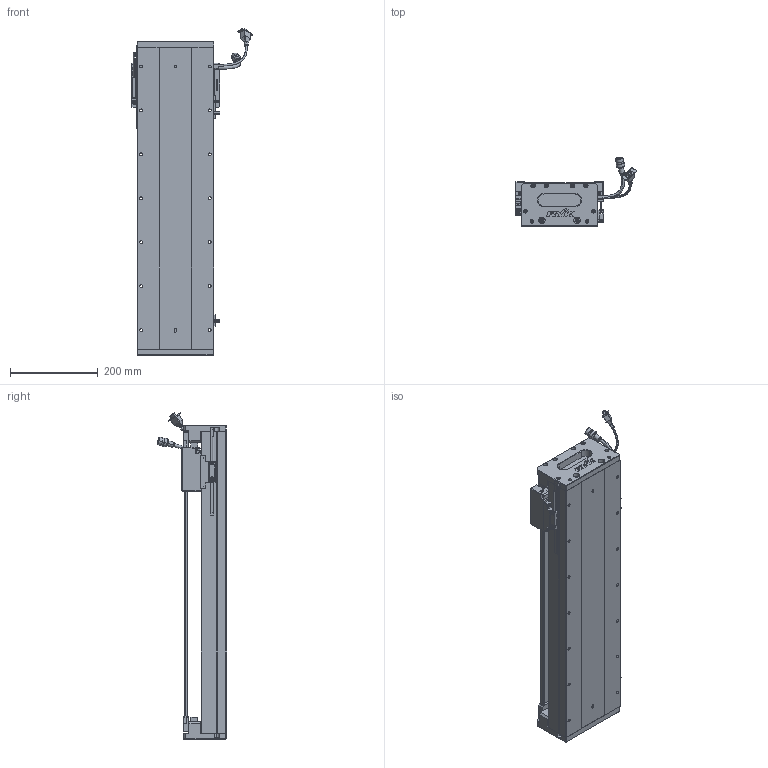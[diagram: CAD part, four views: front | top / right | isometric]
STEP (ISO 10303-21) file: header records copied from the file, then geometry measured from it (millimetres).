
FILE_DESCRIPTION (( 'STEP AP203' ), '1' );
FILE_NAME ('Z1-RY170D-1-L500-B-K.SLDASM_0500.step', '2021-05-17T08:51:36', ( '盈信电脑' ), ( '东莞市道滘镇水果街19号' ), 'SwSTEP 2.0', 'SolidWorks 2016', '' );
FILE_SCHEMA (( 'CONFIG_CONTROL_DESIGN' ));
Length unit declared in the file: millimetre
Products named in the file (36): SCREW-M1.6-2; HARNESS-Part-2; LABEL-Part-1; SEAL; SCREW-M1.6-1; Z-RY170詩湍狟揤裔; HOLDER0; SCALE-Part-1; Z-170詩湍傷裔啣; Z1-RY170-L500詩湍145mm遵_0500; LABEL; COVER-Part-1; 榋妏寠巭燃_暯_M2_2; SCALE; 覜茼ん672; Z1-RY170D-1-L500-B-K.SLDASM_0500; Z1-RY170-L500耀郪菁釱_0500; SCALE-Part-2; 170-Z-臏賑輸盄裔(21遴); PSLH080_PSLF2; HARNESS-Part-1; SCREW-M1.6; SCREW-M1.7-1; RY170直线电机感应器672光电感应片; COVER; 080黍杅芛假蚾釱21遴; Z1-RY170臏賑輸(21遴); SCREW-M1.7; 140雄赽晤鎢ん堤盄; 140蚥薯蝶輸; SEAL-Part-1; SCREW-M1.6-3; HARNESS; PBU_SHEET; SHIELDPLATE; Z-RY170詩湍奻揤裔
Assembly tree (41 placements, depth 4):
  Z1-RY170D-1-L500-B-K.SLDASM_0500
    Z1-RY170-L500耀郪菁釱_0500
    RY170直线电机感应器672光电感应片
    Z1-RY170臏賑輸(21遴)
    覜茼ん672  x3
    PSLH080_PSLF2
      SCALE
        SCALE-Part-1
        SCALE-Part-2
      HARNESS
        HARNESS-Part-1
        HARNESS-Part-2
      LABEL
        LABEL-Part-1
      COVER
        COVER-Part-1
      SEAL
        SEAL-Part-1
      榋妏寠巭燃_暯_M2_2
      SHIELDPLATE
      SCREW-M1.7
      SCREW-M1.7-1
      PBU_SHEET
      SCREW-M1.6
      SCREW-M1.6-1
      SCREW-M1.6-2
      SCREW-M1.6-3
      HOLDER0
    080黍杅芛假蚾釱21遴
    Z1-RY170-L500詩湍145mm遵_0500
    Z-170詩湍傷裔啣  x2
    Z-RY170詩湍奻揤裔  x2
    Z-RY170詩湍狟揤裔  x2
    140蚥薯蝶輸  x2
    170-Z-臏賑輸盄裔(21遴)
    140雄赽晤鎢ん堤盄
Bounding box: 275.34 x 158.11 x 743.73 mm (x, y, z)
Volume: 4317951.5 mm3; surface area: 1065132.9 mm2
Topology: 36 solids, 36 shells, 2716 faces, 7179 edges, 4529 vertices
Faces by surface type: cylinder 1178, plane 1108, cone 308, torus 69, bspline 53
Entity records: 77303 total; most frequent: CARTESIAN_POINT 18998, DIRECTION 11345, ORIENTED_EDGE 11314, EDGE_CURVE 5657, AXIS2_PLACEMENT_3D 4118, VERTEX_POINT 3647, LINE 3109, VECTOR 3109
